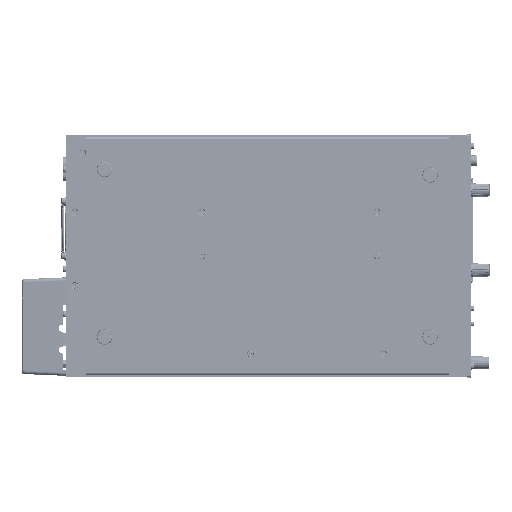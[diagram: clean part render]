
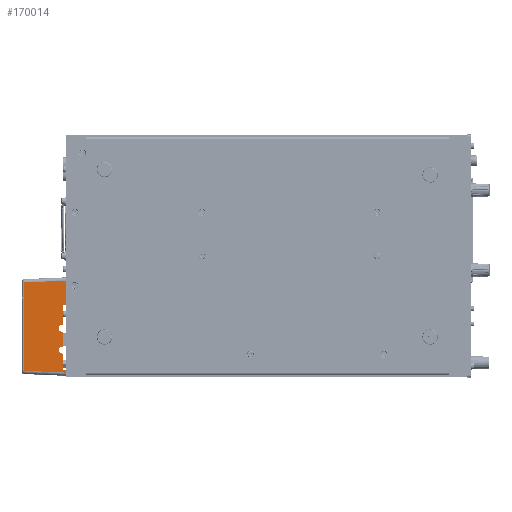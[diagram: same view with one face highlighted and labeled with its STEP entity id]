
A CAD part, front view. The second image highlights one B-rep face of the part: STEP entity #170014.
In plain terms, the highlighted planar face has unit normal (-0.044, -0.999, 0).
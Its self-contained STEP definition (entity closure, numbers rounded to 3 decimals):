
#12813=PLANE('',#180515);
#21706=FACE_OUTER_BOUND('',#31535,.T.);
#31535=EDGE_LOOP('',(#147898,#147899,#147900,#147901,#147902,#147903,#147904,
#147905,#147906,#147907,#147908,#147909,#147910,#147911,#147912,#147913));
#32498=ELLIPSE('',#180516,3.003,3.);
#32499=ELLIPSE('',#180517,3.003,3.);
#50076=LINE('',#292940,#65356);
#50077=LINE('',#292944,#65357);
#50078=LINE('',#292946,#65358);
#50079=LINE('',#292948,#65359);
#50080=LINE('',#292952,#65360);
#50081=LINE('',#292954,#65361);
#50082=LINE('',#292956,#65362);
#50083=LINE('',#292958,#65363);
#50084=LINE('',#292960,#65364);
#50085=LINE('',#292961,#65365);
#50086=LINE('',#292963,#65366);
#50087=LINE('',#292965,#65367);
#50088=LINE('',#292967,#65368);
#50089=LINE('',#292969,#65369);
#65356=VECTOR('',#215073,10.);
#65357=VECTOR('',#215076,10.);
#65358=VECTOR('',#215077,10.);
#65359=VECTOR('',#215078,10.);
#65360=VECTOR('',#215081,10.);
#65361=VECTOR('',#215082,10.);
#65362=VECTOR('',#215083,10.);
#65363=VECTOR('',#215084,10.);
#65364=VECTOR('',#215085,10.);
#65365=VECTOR('',#215086,10.);
#65366=VECTOR('',#215087,10.);
#65367=VECTOR('',#215088,10.);
#65368=VECTOR('',#215089,10.);
#65369=VECTOR('',#215090,10.);
#80886=VERTEX_POINT('',#292936);
#80887=VERTEX_POINT('',#292938);
#80888=VERTEX_POINT('',#292942);
#80889=VERTEX_POINT('',#292943);
#80890=VERTEX_POINT('',#292945);
#80891=VERTEX_POINT('',#292947);
#80892=VERTEX_POINT('',#292949);
#80893=VERTEX_POINT('',#292951);
#80894=VERTEX_POINT('',#292953);
#80895=VERTEX_POINT('',#292955);
#80896=VERTEX_POINT('',#292957);
#80897=VERTEX_POINT('',#292959);
#80898=VERTEX_POINT('',#292962);
#80899=VERTEX_POINT('',#292964);
#80900=VERTEX_POINT('',#292966);
#80901=VERTEX_POINT('',#292968);
#103607=EDGE_CURVE('',#80887,#80886,#50076,.T.);
#103608=EDGE_CURVE('',#80888,#80889,#50077,.T.);
#103609=EDGE_CURVE('',#80889,#80890,#50078,.T.);
#103610=EDGE_CURVE('',#80890,#80891,#50079,.T.);
#103611=EDGE_CURVE('',#80891,#80892,#32498,.T.);
#103612=EDGE_CURVE('',#80892,#80893,#50080,.T.);
#103613=EDGE_CURVE('',#80893,#80894,#50081,.T.);
#103614=EDGE_CURVE('',#80894,#80895,#50082,.T.);
#103615=EDGE_CURVE('',#80896,#80895,#50083,.T.);
#103616=EDGE_CURVE('',#80897,#80896,#50084,.T.);
#103617=EDGE_CURVE('',#80886,#80897,#50085,.T.);
#103618=EDGE_CURVE('',#80898,#80887,#50086,.T.);
#103619=EDGE_CURVE('',#80898,#80899,#50087,.T.);
#103620=EDGE_CURVE('',#80899,#80900,#50088,.T.);
#103621=EDGE_CURVE('',#80900,#80901,#50089,.T.);
#103622=EDGE_CURVE('',#80901,#80888,#32499,.T.);
#147898=ORIENTED_EDGE('',*,*,#103608,.T.);
#147899=ORIENTED_EDGE('',*,*,#103609,.T.);
#147900=ORIENTED_EDGE('',*,*,#103610,.T.);
#147901=ORIENTED_EDGE('',*,*,#103611,.T.);
#147902=ORIENTED_EDGE('',*,*,#103612,.T.);
#147903=ORIENTED_EDGE('',*,*,#103613,.T.);
#147904=ORIENTED_EDGE('',*,*,#103614,.T.);
#147905=ORIENTED_EDGE('',*,*,#103615,.F.);
#147906=ORIENTED_EDGE('',*,*,#103616,.F.);
#147907=ORIENTED_EDGE('',*,*,#103617,.F.);
#147908=ORIENTED_EDGE('',*,*,#103607,.F.);
#147909=ORIENTED_EDGE('',*,*,#103618,.F.);
#147910=ORIENTED_EDGE('',*,*,#103619,.T.);
#147911=ORIENTED_EDGE('',*,*,#103620,.T.);
#147912=ORIENTED_EDGE('',*,*,#103621,.T.);
#147913=ORIENTED_EDGE('',*,*,#103622,.T.);
#170014=ADVANCED_FACE('',(#21706),#12813,.T.);
#180515=AXIS2_PLACEMENT_3D('',#292941,#215074,#215075);
#180516=AXIS2_PLACEMENT_3D('',#292950,#215079,#215080);
#180517=AXIS2_PLACEMENT_3D('',#292970,#215091,#215092);
#215073=DIRECTION('',(-0.998,0.044,0.044));
#215074=DIRECTION('center_axis',(-0.044,-0.999,
0.));
#215075=DIRECTION('ref_axis',(0.,0.,
1.));
#215076=DIRECTION('',(0.998,-0.044,0.044));
#215077=DIRECTION('',(0.,0.,1.));
#215078=DIRECTION('',(-0.998,0.044,0.044));
#215079=DIRECTION('center_axis',(0.044,0.999,0.));
#215080=DIRECTION('ref_axis',(0.999,-0.044,0.));
#215081=DIRECTION('',(0.998,-0.044,0.044));
#215082=DIRECTION('',(0.,0.,1.));
#215083=DIRECTION('',(0.998,-0.044,0.044));
#215084=DIRECTION('',(0.,0.,-1.));
#215085=DIRECTION('',(0.998,-0.044,0.044));
#215086=DIRECTION('',(0.,0.,1.));
#215087=DIRECTION('',(0.,0.,-1.));
#215088=DIRECTION('',(-0.998,0.044,0.044));
#215089=DIRECTION('',(0.,0.,1.));
#215090=DIRECTION('',(-0.998,0.044,0.044));
#215091=DIRECTION('center_axis',(0.044,0.999,0.));
#215092=DIRECTION('ref_axis',(0.999,-0.044,0.));
#292936=CARTESIAN_POINT('',(-408.77,-40.82,-104.823));
#292938=CARTESIAN_POINT('',(-370.3,-42.5,-106.503));
#292940=CARTESIAN_POINT('',(-372.127,-42.42,-106.423));
#292941=CARTESIAN_POINT('Origin',(-370.3,-42.5,-19.5));
#292942=CARTESIAN_POINT('',(-373.931,-42.341,-83.104));
#292943=CARTESIAN_POINT('',(-373.3,-42.369,-83.077));
#292944=CARTESIAN_POINT('',(-369.834,-42.52,-82.925));
#292945=CARTESIAN_POINT('',(-373.3,-42.369,-69.126));
#292946=CARTESIAN_POINT('',(-373.3,-42.369,-53.189));
#292947=CARTESIAN_POINT('',(-373.931,-42.341,-69.099));
#292948=CARTESIAN_POINT('',(-374.107,-42.334,-69.091));
#292949=CARTESIAN_POINT('',(-373.931,-42.341,-63.104));
#292950=CARTESIAN_POINT('Origin',(-373.8,-42.347,-66.102));
#292951=CARTESIAN_POINT('',(-373.3,-42.369,-63.077));
#292952=CARTESIAN_POINT('',(-370.269,-42.501,-62.944));
#292953=CARTESIAN_POINT('',(-373.3,-42.369,-44.631));
#292954=CARTESIAN_POINT('',(-373.3,-42.369,-36.611));
#292955=CARTESIAN_POINT('',(-370.3,-42.5,-44.5));
#292956=CARTESIAN_POINT('',(-369.791,-42.522,-44.478));
#292957=CARTESIAN_POINT('',(-370.3,-42.5,-22.497));
#292958=CARTESIAN_POINT('',(-370.3,-42.5,-19.5));
#292959=CARTESIAN_POINT('',(-408.77,-40.82,-24.177));
#292960=CARTESIAN_POINT('',(-371.54,-42.446,-22.551));
#292961=CARTESIAN_POINT('',(-408.77,-40.82,-42.603));
#292962=CARTESIAN_POINT('',(-370.3,-42.5,-104.5));
#292963=CARTESIAN_POINT('',(-370.3,-42.5,-19.5));
#292964=CARTESIAN_POINT('',(-373.3,-42.369,-104.369));
#292965=CARTESIAN_POINT('',(-372.149,-42.419,-104.419));
#292966=CARTESIAN_POINT('',(-373.3,-42.369,-89.126));
#292967=CARTESIAN_POINT('',(-373.3,-42.369,-53.189));
#292968=CARTESIAN_POINT('',(-373.931,-42.341,-89.099));
#292969=CARTESIAN_POINT('',(-374.542,-42.315,-89.072));
#292970=CARTESIAN_POINT('Origin',(-373.8,-42.347,-86.102));
